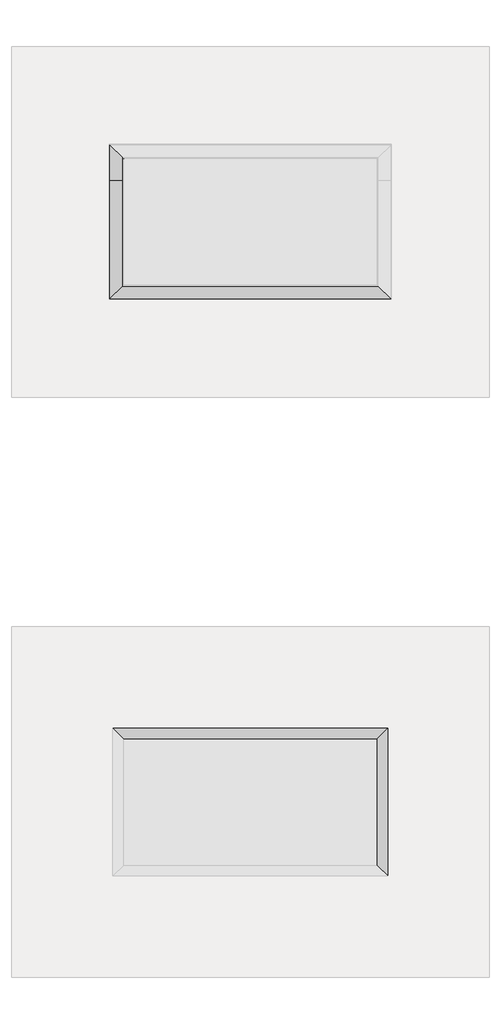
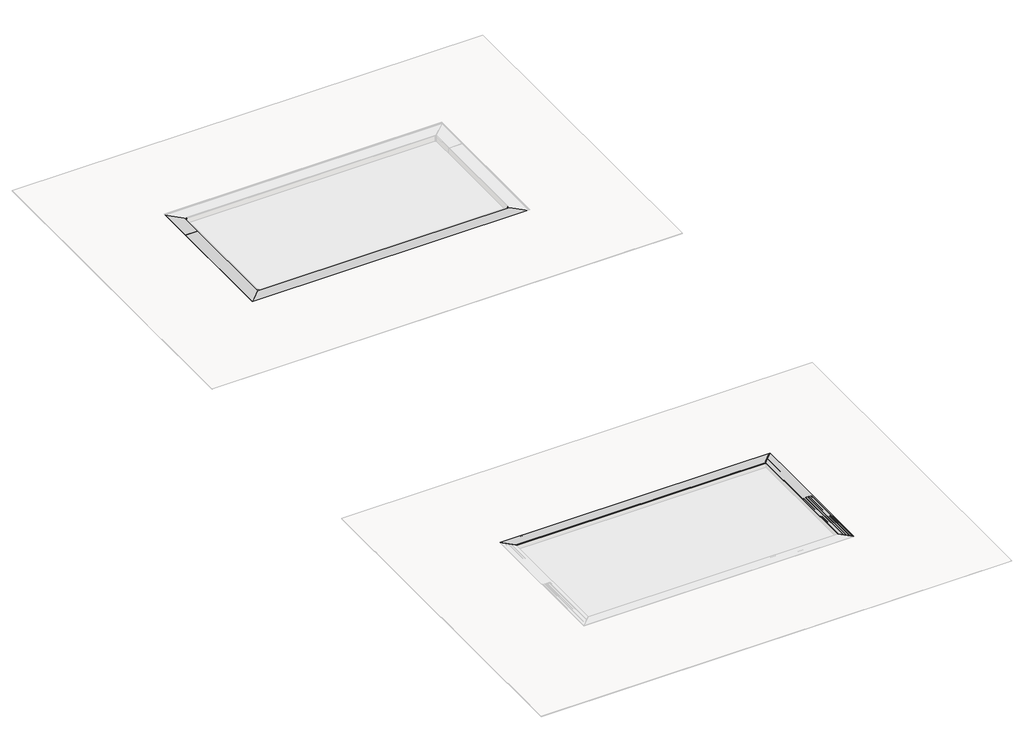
# One storey, part 4 of 8: 22 proxies.
"""IFC4 building model written with IfcOpenShell, lengths in millimetres."""

from ifc_helpers import new_model, si_unit, frame, origin, place, context, project, spatial, polyline, outline, extrude, faceted_brep, transform, mapped, element, save
from components import generic_models_9fc1b6fc, generic_models_d2947595, generic_models_c2bf57ab, generic_models_37207ae5, generic_models_75372383, generic_models_188eaae2, generic_models_eecde402, generic_models_0ac0a968, generic_models_0a1366a3, generic_models_3d608d6a, generic_models_158b5dbd, generic_models_0967b9bf

model = new_model("IFC4")

# Units and contexts
model_context = context("Model", 3, world=origin())
ifc_project = project(units=[si_unit("LENGTHUNIT", "METRE", prefix="MILLI")], contexts=[model_context])

# Site, building, storey
site = spatial("IfcSite", under=ifc_project)
building = spatial("IfcBuilding", under=site)
storey = spatial("IfcBuildingStorey", under=building, Name="EXAGRES_Serie YOHO_Piscinas_ejemplo", Elevation=0.0)

# Proxies
placement = place(None, origin())
element("IfcBuildingElementProxy", 1, Name="Wall Sweeps", at=placement, inside=storey, context=model_context, shape_type="Brep", body=[
    faceted_brep([(-4394.8495187, -8731.1586753, -200.0), (-4594.8495187, -8531.1586753, -200.0), (-4794.8495187, -8331.1586753, -200.0), (-4794.8495187, -8331.1586753, 0.0), (-4394.8495187, -8731.1586753, 0.0), (-13244.8495187, -8731.1586753, -200.0), (-13244.8495187, -8731.1586753, 0.0), (-12844.8495187, -8331.1586753, 0.0), (-12844.8495187, -8331.1586753, -200.0), (-13044.8495187, -8531.1586753, -200.0)], [[[0, 1, 2, 3, 4]], [[5, 6, 7, 8, 9]], [[3, 2, 8, 7]], [[2, 1, 0, 5, 9, 8]], [[4, 3, 7, 6]], [[0, 4, 6, 5]]]),
])
element("IfcBuildingElementProxy", 2, Name="Wall Sweeps", at=placement, inside=storey, context=model_context, shape_type="Brep", body=[
    faceted_brep([(-13244.8495187, -8731.1586753, -200.0), (-13044.8495187, -8531.1586753, -200.0), (-12844.8495187, -8331.1586753, -200.0), (-12844.8495187, -8331.1586753, 0.0), (-13244.8495187, -8731.1586753, 0.0), (-13244.8495187, -5006.1586753, -200.0), (-13244.8495187, -5006.1586753, 0.0), (-12844.8495187, -5006.1586753, 0.0), (-12844.8495187, -5006.1586753, -200.0), (-13044.8495187, -5006.1586753, -200.0)], [[[0, 1, 2, 3, 4]], [[5, 6, 7, 8, 9]], [[3, 2, 8, 7]], [[2, 1, 0, 5, 9, 8]], [[4, 3, 7, 6]], [[0, 4, 6, 5]]]),
])
element("IfcBuildingElementProxy", 3, Name="Wall Sweeps", at=placement, inside=storey, context=model_context, shape_type="Brep", body=[
    faceted_brep([(-13244.8495187, -5006.1586753, -200.0), (-13044.8495187, -5006.1586753, -200.0), (-12844.8495187, -5006.1586753, -200.0), (-12844.8495187, -5006.1586753, 0.0), (-13244.8495187, -5006.1586753, 0.0), (-13244.8495187, -3881.1586753, -200.0), (-13244.8495187, -3881.1586753, 0.0), (-12844.8495187, -4281.1586753, 0.0), (-12844.8495187, -4281.1586753, -200.0), (-13044.8495187, -4081.1586753, -200.0)], [[[0, 1, 2, 3, 4]], [[5, 6, 7, 8, 9]], [[2, 1, 0, 5, 9, 8]], [[3, 2, 8, 7]], [[4, 3, 7, 6]], [[0, 4, 6, 5]]]),
])
element("IfcBuildingElementProxy", 4, Name="Wall Sweeps", at=placement, inside=storey, context=model_context, shape_type="Brep", body=[
    faceted_brep([(-12832.8495187, -22587.0065757, 0.0), (-12819.8495187, -22600.0065757, 0.0), (-12819.8495187, -22600.0065757, 33.0), (-13149.8495187, -22270.0065757, 33.0), (-13149.8495187, -22270.0065757, 21.0), (-13143.8495187, -22276.0065757, 21.0), (-13143.8495187, -22276.0065757, 22.0), (-13139.8495187, -22280.0065757, 22.0), (-13139.8495187, -22280.0065757, 21.0), (-13133.8495187, -22286.0065757, 21.0), (-13133.8495187, -22286.0065757, 22.0), (-13129.8495187, -22290.0065757, 22.0), (-13129.8495187, -22290.0065757, 21.0), (-13123.8495187, -22296.0065757, 21.0), (-13123.8495187, -22296.0065757, 22.0), (-13119.8495187, -22300.0065757, 22.0), (-13119.8495187, -22300.0065757, 21.0), (-13113.8495187, -22306.0065757, 21.0), (-13113.8495187, -22306.0065757, 22.0), (-13109.8495187, -22310.0065757, 22.0), (-13109.8495187, -22310.0065757, 21.0), (-13103.8495187, -22316.0065757, 21.0), (-13103.8495187, -22316.0065757, 22.0), (-13099.8495187, -22320.0065757, 22.0), (-13099.8495187, -22320.0065757, 21.0), (-13093.8495187, -22326.0065757, 21.0), (-13093.8495187, -22326.0065757, 22.0), (-13089.8495187, -22330.0065757, 22.0), (-13089.8495187, -22330.0065757, 21.0), (-13083.8495187, -22336.0065757, 21.0), (-13083.8495187, -22336.0065757, 22.0), (-13079.8495187, -22340.0065757, 22.0), (-13079.8495187, -22340.0065757, 21.0), (-13073.8495187, -22346.0065757, 21.0), (-13073.8495187, -22346.0065757, 22.0), (-13069.8495187, -22350.0065757, 22.0), (-13069.8495187, -22350.0065757, 21.0), (-13063.8495187, -22356.0065757, 21.0), (-13063.8495187, -22356.0065757, 22.0), (-13059.8495187, -22360.0065757, 22.0), (-13059.8495187, -22360.0065757, 21.0), (-13053.8495187, -22366.0065757, 21.0), (-13053.8495187, -22366.0065757, 22.0), (-13049.8495187, -22370.0065757, 22.0), (-13049.8495187, -22370.0065757, 21.0), (-13043.8495187, -22376.0065757, 21.0), (-13043.8495187, -22376.0065757, 22.0), (-13039.8495187, -22380.0065757, 22.0), (-13039.8495187, -22380.0065757, 21.0), (-13033.8495187, -22386.0065757, 21.0), (-13033.8495187, -22386.0065757, 22.0), (-13029.8495187, -22390.0065757, 22.0), (-13029.8495187, -22390.0065757, 21.0), (-13023.8495187, -22396.0065757, 21.0), (-13023.8495187, -22396.0065757, 22.0), (-13019.8495187, -22400.0065757, 22.0), (-13019.8495187, -22400.0065757, 21.0), (-13013.8495187, -22406.0065757, 21.0), (-13013.8495187, -22406.0065757, 22.0), (-13009.8495187, -22410.0065757, 22.0), (-13009.8495187, -22410.0065757, 21.0), (-13003.8495187, -22416.0065757, 21.0), (-13003.8495187, -22416.0065757, 22.0), (-12999.8495187, -22420.0065757, 22.0), (-12999.8495187, -22420.0065757, 21.0), (-12993.8495187, -22426.0065757, 21.0), (-12993.8495187, -22426.0065757, 22.0), (-12989.8495187, -22430.0065757, 22.0), (-12989.8495187, -22430.0065757, 21.0), (-12983.8495187, -22436.0065757, 21.0), (-12983.8495187, -22436.0065757, 22.0), (-12979.8495187, -22440.0065757, 22.0), (-12979.8495187, -22440.0065757, 21.0), (-12973.8495187, -22446.0065757, 21.0), (-12973.8495187, -22446.0065757, 22.0), (-12969.8495187, -22450.0065757, 22.0), (-12969.8495187, -22450.0065757, 21.0), (-12963.8495187, -22456.0065757, 21.0), (-12963.8495187, -22456.0065757, 22.0), (-12959.8495187, -22460.0065757, 22.0), (-12959.8495187, -22460.0065757, 21.0), (-12953.8495187, -22466.0065757, 21.0), (-12953.8495187, -22466.0065757, 22.0), (-12949.8495187, -22470.0065757, 22.0), (-12949.8495187, -22470.0065757, 21.0), (-12943.8495187, -22476.0065757, 21.0), (-12943.8495187, -22476.0065757, 22.0), (-12939.8495187, -22480.0065757, 22.0), (-12939.8495187, -22480.0065757, 21.0), (-12933.8495187, -22486.0065757, 21.0), (-12933.8495187, -22486.0065757, 22.0), (-12929.8495187, -22490.0065757, 22.0), (-12929.8495187, -22490.0065757, 21.0), (-12923.8495187, -22496.0065757, 21.0), (-12923.8495187, -22496.0065757, 22.0), (-12919.8495187, -22500.0065757, 22.0), (-12919.8495187, -22500.0065757, 21.0), (-12913.8495187, -22506.0065757, 21.0), (-12913.8495187, -22506.0065757, 22.0), (-12909.8495187, -22510.0065757, 22.0), (-12909.8495187, -22510.0065757, 21.0), (-12903.8495187, -22516.0065757, 21.0), (-12903.8495187, -22516.0065757, 22.0), (-12899.8495187, -22520.0065757, 22.0), (-12899.8495187, -22520.0065757, 21.0), (-12893.8495187, -22526.0065757, 21.0), (-12893.8495187, -22526.0065757, 22.0), (-12889.8495187, -22530.0065757, 22.0), (-12889.8495187, -22530.0065757, 21.0), (-12883.8495187, -22536.0065757, 21.0), (-12883.8495187, -22536.0065757, 22.0), (-12879.8495187, -22540.0065757, 22.0), (-12879.8495187, -22540.0065757, 21.0), (-12873.8495187, -22546.0065757, 21.0), (-12873.8495187, -22546.0065757, 22.0), (-12869.8495187, -22550.0065757, 22.0), (-12869.8495187, -22550.0065757, 21.0), (-12863.8495187, -22556.0065757, 21.0), (-12863.8495187, -22556.0065757, 22.0), (-12859.8495187, -22560.0065757, 22.0), (-12859.8495187, -22560.0065757, 21.0), (-12853.8495187, -22566.0065757, 21.0), (-12853.8495187, -22566.0065757, 22.0), (-12849.8495187, -22570.0065757, 22.0), (-12849.8495187, -22570.0065757, 21.0), (-12843.8495187, -22576.0065757, 21.0), (-12843.8495187, -22576.0065757, 22.0), (-12839.8495187, -22580.0065757, 22.0), (-12839.8495187, -22580.0065757, 21.0), (-12832.8495187, -22587.0065757, 21.0), (-12832.8495187, -22587.0065757, 14.0), (-12831.8495187, -22588.0065757, 14.0), (-12831.8495187, -22588.0065757, 8.0), (-12832.8495187, -22587.0065757, 8.0), (-4806.8495187, -22587.0065757, 0.0), (-4806.8495187, -22587.0065757, 8.0), (-4807.8495187, -22588.0065757, 8.0), (-4807.8495187, -22588.0065757, 14.0), (-4806.8495187, -22587.0065757, 14.0), (-4806.8495187, -22587.0065757, 21.0), (-4799.8495187, -22580.0065757, 21.0), (-4799.8495187, -22580.0065757, 22.0), (-4795.8495187, -22576.0065757, 22.0), (-4795.8495187, -22576.0065757, 21.0), (-4789.8495187, -22570.0065757, 21.0), (-4789.8495187, -22570.0065757, 22.0), (-4785.8495187, -22566.0065757, 22.0), (-4785.8495187, -22566.0065757, 21.0), (-4779.8495187, -22560.0065757, 21.0), (-4779.8495187, -22560.0065757, 22.0), (-4775.8495187, -22556.0065757, 22.0), (-4775.8495187, -22556.0065757, 21.0), (-4769.8495187, -22550.0065757, 21.0), (-4769.8495187, -22550.0065757, 22.0), (-4765.8495187, -22546.0065757, 22.0), (-4765.8495187, -22546.0065757, 21.0), (-4759.8495187, -22540.0065757, 21.0), (-4759.8495187, -22540.0065757, 22.0), (-4755.8495187, -22536.0065757, 22.0), (-4755.8495187, -22536.0065757, 21.0), (-4749.8495187, -22530.0065757, 21.0), (-4749.8495187, -22530.0065757, 22.0), (-4745.8495187, -22526.0065757, 22.0), (-4745.8495187, -22526.0065757, 21.0), (-4739.8495187, -22520.0065757, 21.0), (-4739.8495187, -22520.0065757, 22.0), (-4735.8495187, -22516.0065757, 22.0), (-4735.8495187, -22516.0065757, 21.0), (-4729.8495187, -22510.0065757, 21.0), (-4729.8495187, -22510.0065757, 22.0), (-4725.8495187, -22506.0065757, 22.0), (-4725.8495187, -22506.0065757, 21.0), (-4719.8495187, -22500.0065757, 21.0), (-4719.8495187, -22500.0065757, 22.0), (-4715.8495187, -22496.0065757, 22.0), (-4715.8495187, -22496.0065757, 21.0), (-4709.8495187, -22490.0065757, 21.0), (-4709.8495187, -22490.0065757, 22.0), (-4705.8495187, -22486.0065757, 22.0), (-4705.8495187, -22486.0065757, 21.0), (-4699.8495187, -22480.0065757, 21.0), (-4699.8495187, -22480.0065757, 22.0), (-4695.8495187, -22476.0065757, 22.0), (-4695.8495187, -22476.0065757, 21.0), (-4689.8495187, -22470.0065757, 21.0), (-4689.8495187, -22470.0065757, 22.0), (-4685.8495187, -22466.0065757, 22.0), (-4685.8495187, -22466.0065757, 21.0), (-4679.8495187, -22460.0065757, 21.0), (-4679.8495187, -22460.0065757, 22.0), (-4675.8495187, -22456.0065757, 22.0), (-4675.8495187, -22456.0065757, 21.0), (-4669.8495187, -22450.0065757, 21.0), (-4669.8495187, -22450.0065757, 22.0), (-4665.8495187, -22446.0065757, 22.0), (-4665.8495187, -22446.0065757, 21.0), (-4659.8495187, -22440.0065757, 21.0), (-4659.8495187, -22440.0065757, 22.0), (-4655.8495187, -22436.0065757, 22.0), (-4655.8495187, -22436.0065757, 21.0), (-4649.8495187, -22430.0065757, 21.0), (-4649.8495187, -22430.0065757, 22.0), (-4645.8495187, -22426.0065757, 22.0), (-4645.8495187, -22426.0065757, 21.0), (-4639.8495187, -22420.0065757, 21.0), (-4639.8495187, -22420.0065757, 22.0), (-4635.8495187, -22416.0065757, 22.0), (-4635.8495187, -22416.0065757, 21.0), (-4629.8495187, -22410.0065757, 21.0), (-4629.8495187, -22410.0065757, 22.0), (-4625.8495187, -22406.0065757, 22.0), (-4625.8495187, -22406.0065757, 21.0), (-4619.8495187, -22400.0065757, 21.0), (-4619.8495187, -22400.0065757, 22.0), (-4615.8495187, -22396.0065757, 22.0), (-4615.8495187, -22396.0065757, 21.0), (-4609.8495187, -22390.0065757, 21.0), (-4609.8495187, -22390.0065757, 22.0), (-4605.8495187, -22386.0065757, 22.0), (-4605.8495187, -22386.0065757, 21.0), (-4599.8495187, -22380.0065757, 21.0), (-4599.8495187, -22380.0065757, 22.0), (-4595.8495187, -22376.0065757, 22.0), (-4595.8495187, -22376.0065757, 21.0), (-4589.8495187, -22370.0065757, 21.0), (-4589.8495187, -22370.0065757, 22.0), (-4585.8495187, -22366.0065757, 22.0), (-4585.8495187, -22366.0065757, 21.0), (-4579.8495187, -22360.0065757, 21.0), (-4579.8495187, -22360.0065757, 22.0), (-4575.8495187, -22356.0065757, 22.0), (-4575.8495187, -22356.0065757, 21.0), (-4569.8495187, -22350.0065757, 21.0), (-4569.8495187, -22350.0065757, 22.0), (-4565.8495187, -22346.0065757, 22.0), (-4565.8495187, -22346.0065757, 21.0), (-4559.8495187, -22340.0065757, 21.0), (-4559.8495187, -22340.0065757, 22.0), (-4555.8495187, -22336.0065757, 22.0), (-4555.8495187, -22336.0065757, 21.0), (-4549.8495187, -22330.0065757, 21.0), (-4549.8495187, -22330.0065757, 22.0), (-4545.8495187, -22326.0065757, 22.0), (-4545.8495187, -22326.0065757, 21.0), (-4539.8495187, -22320.0065757, 21.0), (-4539.8495187, -22320.0065757, 22.0), (-4535.8495187, -22316.0065757, 22.0), (-4535.8495187, -22316.0065757, 21.0), (-4529.8495187, -22310.0065757, 21.0), (-4529.8495187, -22310.0065757, 22.0), (-4525.8495187, -22306.0065757, 22.0), (-4525.8495187, -22306.0065757, 21.0), (-4519.8495187, -22300.0065757, 21.0), (-4519.8495187, -22300.0065757, 22.0), (-4515.8495187, -22296.0065757, 22.0), (-4515.8495187, -22296.0065757, 21.0), (-4509.8495187, -22290.0065757, 21.0), (-4509.8495187, -22290.0065757, 22.0), (-4505.8495187, -22286.0065757, 22.0), (-4505.8495187, -22286.0065757, 21.0), (-4499.8495187, -22280.0065757, 21.0), (-4499.8495187, -22280.0065757, 22.0), (-4495.8495187, -22276.0065757, 22.0), (-4495.8495187, -22276.0065757, 21.0), (-4489.8495187, -22270.0065757, 21.0), (-4489.8495187, -22270.0065757, 33.0), (-4819.8495187, -22600.0065757, 33.0), (-4819.8495187, -22600.0065757, 0.0)], [[[0, 1, 2, 3, 4, 5, 6, 7, 8, 9, 10, 11, 12, 13, 14, 15, 16, 17, 18, 19, 20, 21, 22, 23, 24, 25, 26, 27, 28, 29, 30, 31, 32, 33, 34, 35, 36, 37, 38, 39, 40, 41, 42, 43, 44, 45, 46, 47, 48, 49, 50, 51, 52, 53, 54, 55, 56, 57, 58, 59, 60, 61, 62, 63, 64, 65, 66, 67, 68, 69, 70, 71, 72, 73, 74, 75, 76, 77, 78, 79, 80, 81, 82, 83, 84, 85, 86, 87, 88, 89, 90, 91, 92, 93, 94, 95, 96, 97, 98, 99, 100, 101, 102, 103, 104, 105, 106, 107, 108, 109, 110, 111, 112, 113, 114, 115, 116, 117, 118, 119, 120, 121, 122, 123, 124, 125, 126, 127, 128, 129, 130, 131, 132, 133]], [[134, 135, 136, 137, 138, 139, 140, 141, 142, 143, 144, 145, 146, 147, 148, 149, 150, 151, 152, 153, 154, 155, 156, 157, 158, 159, 160, 161, 162, 163, 164, 165, 166, 167, 168, 169, 170, 171, 172, 173, 174, 175, 176, 177, 178, 179, 180, 181, 182, 183, 184, 185, 186, 187, 188, 189, 190, 191, 192, 193, 194, 195, 196, 197, 198, 199, 200, 201, 202, 203, 204, 205, 206, 207, 208, 209, 210, 211, 212, 213, 214, 215, 216, 217, 218, 219, 220, 221, 222, 223, 224, 225, 226, 227, 228, 229, 230, 231, 232, 233, 234, 235, 236, 237, 238, 239, 240, 241, 242, 243, 244, 245, 246, 247, 248, 249, 250, 251, 252, 253, 254, 255, 256, 257, 258, 259, 260, 261, 262, 263, 264, 265, 266, 267]], [[1, 0, 134, 267]], [[2, 1, 267, 266]], [[3, 2, 266, 265]], [[4, 3, 265, 264]], [[5, 4, 264, 263]], [[6, 5, 263, 262]], [[7, 6, 262, 261]], [[8, 7, 261, 260]], [[9, 8, 260, 259]], [[10, 9, 259, 258]], [[11, 10, 258, 257]], [[12, 11, 257, 256]], [[13, 12, 256, 255]], [[14, 13, 255, 254]], [[15, 14, 254, 253]], [[16, 15, 253, 252]], [[17, 16, 252, 251]], [[18, 17, 251, 250]], [[19, 18, 250, 249]], [[20, 19, 249, 248]], [[21, 20, 248, 247]], [[22, 21, 247, 246]], [[23, 22, 246, 245]], [[24, 23, 245, 244]], [[25, 24, 244, 243]], [[26, 25, 243, 242]], [[27, 26, 242, 241]], [[28, 27, 241, 240]], [[29, 28, 240, 239]], [[30, 29, 239, 238]], [[31, 30, 238, 237]], [[32, 31, 237, 236]], [[33, 32, 236, 235]], [[34, 33, 235, 234]], [[35, 34, 234, 233]], [[36, 35, 233, 232]], [[37, 36, 232, 231]], [[38, 37, 231, 230]], [[39, 38, 230, 229]], [[40, 39, 229, 228]], [[41, 40, 228, 227]], [[42, 41, 227, 226]], [[43, 42, 226, 225]], [[44, 43, 225, 224]], [[45, 44, 224, 223]], [[46, 45, 223, 222]], [[47, 46, 222, 221]], [[48, 47, 221, 220]], [[49, 48, 220, 219]], [[50, 49, 219, 218]], [[51, 50, 218, 217]], [[52, 51, 217, 216]], [[53, 52, 216, 215]], [[54, 53, 215, 214]], [[55, 54, 214, 213]], [[56, 55, 213, 212]], [[57, 56, 212, 211]], [[58, 57, 211, 210]], [[59, 58, 210, 209]], [[60, 59, 209, 208]], [[61, 60, 208, 207]], [[62, 61, 207, 206]], [[63, 62, 206, 205]], [[64, 63, 205, 204]], [[65, 64, 204, 203]], [[66, 65, 203, 202]], [[67, 66, 202, 201]], [[68, 67, 201, 200]], [[69, 68, 200, 199]], [[70, 69, 199, 198]], [[71, 70, 198, 197]], [[72, 71, 197, 196]], [[73, 72, 196, 195]], [[74, 73, 195, 194]], [[75, 74, 194, 193]], [[76, 75, 193, 192]], [[77, 76, 192, 191]], [[78, 77, 191, 190]], [[79, 78, 190, 189]], [[80, 79, 189, 188]], [[81, 80, 188, 187]], [[82, 81, 187, 186]], [[83, 82, 186, 185]], [[84, 83, 185, 184]], [[85, 84, 184, 183]], [[86, 85, 183, 182]], [[87, 86, 182, 181]], [[88, 87, 181, 180]], [[89, 88, 180, 179]], [[90, 89, 179, 178]], [[91, 90, 178, 177]], [[92, 91, 177, 176]], [[93, 92, 176, 175]], [[94, 93, 175, 174]], [[95, 94, 174, 173]], [[96, 95, 173, 172]], [[97, 96, 172, 171]], [[98, 97, 171, 170]], [[99, 98, 170, 169]], [[100, 99, 169, 168]], [[101, 100, 168, 167]], [[102, 101, 167, 166]], [[103, 102, 166, 165]], [[104, 103, 165, 164]], [[105, 104, 164, 163]], [[106, 105, 163, 162]], [[107, 106, 162, 161]], [[108, 107, 161, 160]], [[109, 108, 160, 159]], [[110, 109, 159, 158]], [[111, 110, 158, 157]], [[112, 111, 157, 156]], [[113, 112, 156, 155]], [[114, 113, 155, 154]], [[115, 114, 154, 153]], [[116, 115, 153, 152]], [[117, 116, 152, 151]], [[118, 117, 151, 150]], [[119, 118, 150, 149]], [[120, 119, 149, 148]], [[121, 120, 148, 147]], [[122, 121, 147, 146]], [[123, 122, 146, 145]], [[124, 123, 145, 144]], [[125, 124, 144, 143]], [[126, 125, 143, 142]], [[127, 126, 142, 141]], [[128, 127, 141, 140]], [[129, 128, 140, 139]], [[130, 129, 139, 138]], [[131, 130, 138, 137]], [[132, 131, 137, 136]], [[133, 132, 136, 135]], [[0, 133, 135, 134]]]),
])
element("IfcBuildingElementProxy", 5, Name="Wall Sweeps", at=placement, inside=storey, context=model_context, shape_type="SweptSolid", body=[
    extrude(outline(polyline([(-12834.8495187, -22585.0065757), (-13139.8495187, -22280.0065757), (-4499.8495187, -22280.0065757), (-4804.8495187, -22585.0065757), (-12834.8495187, -22585.0065757)])), frame((0.0, 0.0, -181.26), z_axis=(0.0, 0.0, 1.0), x_axis=(1.0, 0.0, 0.0)), (0.0, 0.0, 1.0), 200.0),
])
element("IfcBuildingElementProxy", 6, Name="Wall Sweeps", at=placement, inside=storey, context=model_context, shape_type="Brep", body=[
    faceted_brep([(-4499.8495187, -26920.0065757, -181.26), (-4594.8495187, -26825.0065757, -181.26), (-4804.8495187, -26615.0065757, -181.26), (-4804.8495187, -26615.0065757, 0.0), (-4804.8495187, -26615.0065757, 18.74), (-4499.8495187, -26920.0065757, 18.74), (-13139.8495187, -26920.0065757, -181.26), (-13139.8495187, -26920.0065757, 18.74), (-12834.8495187, -26615.0065757, 18.74), (-12834.8495187, -26615.0065757, 0.0), (-12834.8495187, -26615.0065757, -181.26), (-13044.8495187, -26825.0065757, -181.26)], [[[0, 1, 2, 3, 4, 5]], [[6, 7, 8, 9, 10, 11]], [[4, 3, 2, 10, 9, 8]], [[2, 1, 0, 6, 11, 10]], [[5, 4, 8, 7]], [[0, 5, 7, 6]]]),
])
element("IfcBuildingElementProxy", 7, Name="Wall Sweeps", at=placement, inside=storey, context=model_context, shape_type="Brep", body=[
    faceted_brep([(-4806.8495187, -22587.0065757, 0.0), (-4819.8495187, -22600.0065757, 0.0), (-4819.8495187, -22600.0065757, 33.0), (-4489.8495187, -22270.0065757, 33.0), (-4489.8495187, -22270.0065757, 21.0), (-4495.8495187, -22276.0065757, 21.0), (-4495.8495187, -22276.0065757, 22.0), (-4499.8495187, -22280.0065757, 22.0), (-4499.8495187, -22280.0065757, 21.0), (-4505.8495187, -22286.0065757, 21.0), (-4505.8495187, -22286.0065757, 22.0), (-4509.8495187, -22290.0065757, 22.0), (-4509.8495187, -22290.0065757, 21.0), (-4515.8495187, -22296.0065757, 21.0), (-4515.8495187, -22296.0065757, 22.0), (-4519.8495187, -22300.0065757, 22.0), (-4519.8495187, -22300.0065757, 21.0), (-4525.8495187, -22306.0065757, 21.0), (-4525.8495187, -22306.0065757, 22.0), (-4529.8495187, -22310.0065757, 22.0), (-4529.8495187, -22310.0065757, 21.0), (-4535.8495187, -22316.0065757, 21.0), (-4535.8495187, -22316.0065757, 22.0), (-4539.8495187, -22320.0065757, 22.0), (-4539.8495187, -22320.0065757, 21.0), (-4545.8495187, -22326.0065757, 21.0), (-4545.8495187, -22326.0065757, 22.0), (-4549.8495187, -22330.0065757, 22.0), (-4549.8495187, -22330.0065757, 21.0), (-4555.8495187, -22336.0065757, 21.0), (-4555.8495187, -22336.0065757, 22.0), (-4559.8495187, -22340.0065757, 22.0), (-4559.8495187, -22340.0065757, 21.0), (-4565.8495187, -22346.0065757, 21.0), (-4565.8495187, -22346.0065757, 22.0), (-4569.8495187, -22350.0065757, 22.0), (-4569.8495187, -22350.0065757, 21.0), (-4575.8495187, -22356.0065757, 21.0), (-4575.8495187, -22356.0065757, 22.0), (-4579.8495187, -22360.0065757, 22.0), (-4579.8495187, -22360.0065757, 21.0), (-4585.8495187, -22366.0065757, 21.0), (-4585.8495187, -22366.0065757, 22.0), (-4589.8495187, -22370.0065757, 22.0), (-4589.8495187, -22370.0065757, 21.0), (-4595.8495187, -22376.0065757, 21.0), (-4595.8495187, -22376.0065757, 22.0), (-4599.8495187, -22380.0065757, 22.0), (-4599.8495187, -22380.0065757, 21.0), (-4605.8495187, -22386.0065757, 21.0), (-4605.8495187, -22386.0065757, 22.0), (-4609.8495187, -22390.0065757, 22.0), (-4609.8495187, -22390.0065757, 21.0), (-4615.8495187, -22396.0065757, 21.0), (-4615.8495187, -22396.0065757, 22.0), (-4619.8495187, -22400.0065757, 22.0), (-4619.8495187, -22400.0065757, 21.0), (-4625.8495187, -22406.0065757, 21.0), (-4625.8495187, -22406.0065757, 22.0), (-4629.8495187, -22410.0065757, 22.0), (-4629.8495187, -22410.0065757, 21.0), (-4635.8495187, -22416.0065757, 21.0), (-4635.8495187, -22416.0065757, 22.0), (-4639.8495187, -22420.0065757, 22.0), (-4639.8495187, -22420.0065757, 21.0), (-4645.8495187, -22426.0065757, 21.0), (-4645.8495187, -22426.0065757, 22.0), (-4649.8495187, -22430.0065757, 22.0), (-4649.8495187, -22430.0065757, 21.0), (-4655.8495187, -22436.0065757, 21.0), (-4655.8495187, -22436.0065757, 22.0), (-4659.8495187, -22440.0065757, 22.0), (-4659.8495187, -22440.0065757, 21.0), (-4665.8495187, -22446.0065757, 21.0), (-4665.8495187, -22446.0065757, 22.0), (-4669.8495187, -22450.0065757, 22.0), (-4669.8495187, -22450.0065757, 21.0), (-4675.8495187, -22456.0065757, 21.0), (-4675.8495187, -22456.0065757, 22.0), (-4679.8495187, -22460.0065757, 22.0), (-4679.8495187, -22460.0065757, 21.0), (-4685.8495187, -22466.0065757, 21.0), (-4685.8495187, -22466.0065757, 22.0), (-4689.8495187, -22470.0065757, 22.0), (-4689.8495187, -22470.0065757, 21.0), (-4695.8495187, -22476.0065757, 21.0), (-4695.8495187, -22476.0065757, 22.0), (-4699.8495187, -22480.0065757, 22.0), (-4699.8495187, -22480.0065757, 21.0), (-4705.8495187, -22486.0065757, 21.0), (-4705.8495187, -22486.0065757, 22.0), (-4709.8495187, -22490.0065757, 22.0), (-4709.8495187, -22490.0065757, 21.0), (-4715.8495187, -22496.0065757, 21.0), (-4715.8495187, -22496.0065757, 22.0), (-4719.8495187, -22500.0065757, 22.0), (-4719.8495187, -22500.0065757, 21.0), (-4725.8495187, -22506.0065757, 21.0), (-4725.8495187, -22506.0065757, 22.0), (-4729.8495187, -22510.0065757, 22.0), (-4729.8495187, -22510.0065757, 21.0), (-4735.8495187, -22516.0065757, 21.0), (-4735.8495187, -22516.0065757, 22.0), (-4739.8495187, -22520.0065757, 22.0), (-4739.8495187, -22520.0065757, 21.0), (-4745.8495187, -22526.0065757, 21.0), (-4745.8495187, -22526.0065757, 22.0), (-4749.8495187, -22530.0065757, 22.0), (-4749.8495187, -22530.0065757, 21.0), (-4755.8495187, -22536.0065757, 21.0), (-4755.8495187, -22536.0065757, 22.0), (-4759.8495187, -22540.0065757, 22.0), (-4759.8495187, -22540.0065757, 21.0), (-4765.8495187, -22546.0065757, 21.0), (-4765.8495187, -22546.0065757, 22.0), (-4769.8495187, -22550.0065757, 22.0), (-4769.8495187, -22550.0065757, 21.0), (-4775.8495187, -22556.0065757, 21.0), (-4775.8495187, -22556.0065757, 22.0), (-4779.8495187, -22560.0065757, 22.0), (-4779.8495187, -22560.0065757, 21.0), (-4785.8495187, -22566.0065757, 21.0), (-4785.8495187, -22566.0065757, 22.0), (-4789.8495187, -22570.0065757, 22.0), (-4789.8495187, -22570.0065757, 21.0), (-4795.8495187, -22576.0065757, 21.0), (-4795.8495187, -22576.0065757, 22.0), (-4799.8495187, -22580.0065757, 22.0), (-4799.8495187, -22580.0065757, 21.0), (-4806.8495187, -22587.0065757, 21.0), (-4806.8495187, -22587.0065757, 14.0), (-4807.8495187, -22588.0065757, 14.0), (-4807.8495187, -22588.0065757, 8.0), (-4806.8495187, -22587.0065757, 8.0), (-4806.8495187, -26613.0065757, 0.0), (-4806.8495187, -26613.0065757, 8.0), (-4807.8495187, -26612.0065757, 8.0), (-4807.8495187, -26612.0065757, 14.0), (-4806.8495187, -26613.0065757, 14.0), (-4806.8495187, -26613.0065757, 21.0), (-4799.8495187, -26620.0065757, 21.0), (-4799.8495187, -26620.0065757, 22.0), (-4795.8495187, -26624.0065757, 22.0), (-4795.8495187, -26624.0065757, 21.0), (-4789.8495187, -26630.0065757, 21.0), (-4789.8495187, -26630.0065757, 22.0), (-4785.8495187, -26634.0065757, 22.0), (-4785.8495187, -26634.0065757, 21.0), (-4779.8495187, -26640.0065757, 21.0), (-4779.8495187, -26640.0065757, 22.0), (-4775.8495187, -26644.0065757, 22.0), (-4775.8495187, -26644.0065757, 21.0), (-4769.8495187, -26650.0065757, 21.0), (-4769.8495187, -26650.0065757, 22.0), (-4765.8495187, -26654.0065757, 22.0), (-4765.8495187, -26654.0065757, 21.0), (-4759.8495187, -26660.0065757, 21.0), (-4759.8495187, -26660.0065757, 22.0), (-4755.8495187, -26664.0065757, 22.0), (-4755.8495187, -26664.0065757, 21.0), (-4749.8495187, -26670.0065757, 21.0), (-4749.8495187, -26670.0065757, 22.0), (-4745.8495187, -26674.0065757, 22.0), (-4745.8495187, -26674.0065757, 21.0), (-4739.8495187, -26680.0065757, 21.0), (-4739.8495187, -26680.0065757, 22.0), (-4735.8495187, -26684.0065757, 22.0), (-4735.8495187, -26684.0065757, 21.0), (-4729.8495187, -26690.0065757, 21.0), (-4729.8495187, -26690.0065757, 22.0), (-4725.8495187, -26694.0065757, 22.0), (-4725.8495187, -26694.0065757, 21.0), (-4719.8495187, -26700.0065757, 21.0), (-4719.8495187, -26700.0065757, 22.0), (-4715.8495187, -26704.0065757, 22.0), (-4715.8495187, -26704.0065757, 21.0), (-4709.8495187, -26710.0065757, 21.0), (-4709.8495187, -26710.0065757, 22.0), (-4705.8495187, -26714.0065757, 22.0), (-4705.8495187, -26714.0065757, 21.0), (-4699.8495187, -26720.0065757, 21.0), (-4699.8495187, -26720.0065757, 22.0), (-4695.8495187, -26724.0065757, 22.0), (-4695.8495187, -26724.0065757, 21.0), (-4689.8495187, -26730.0065757, 21.0), (-4689.8495187, -26730.0065757, 22.0), (-4685.8495187, -26734.0065757, 22.0), (-4685.8495187, -26734.0065757, 21.0), (-4679.8495187, -26740.0065757, 21.0), (-4679.8495187, -26740.0065757, 22.0), (-4675.8495187, -26744.0065757, 22.0), (-4675.8495187, -26744.0065757, 21.0), (-4669.8495187, -26750.0065757, 21.0), (-4669.8495187, -26750.0065757, 22.0), (-4665.8495187, -26754.0065757, 22.0), (-4665.8495187, -26754.0065757, 21.0), (-4659.8495187, -26760.0065757, 21.0), (-4659.8495187, -26760.0065757, 22.0), (-4655.8495187, -26764.0065757, 22.0), (-4655.8495187, -26764.0065757, 21.0), (-4649.8495187, -26770.0065757, 21.0), (-4649.8495187, -26770.0065757, 22.0), (-4645.8495187, -26774.0065757, 22.0), (-4645.8495187, -26774.0065757, 21.0), (-4639.8495187, -26780.0065757, 21.0), (-4639.8495187, -26780.0065757, 22.0), (-4635.8495187, -26784.0065757, 22.0), (-4635.8495187, -26784.0065757, 21.0), (-4629.8495187, -26790.0065757, 21.0), (-4629.8495187, -26790.0065757, 22.0), (-4625.8495187, -26794.0065757, 22.0), (-4625.8495187, -26794.0065757, 21.0), (-4619.8495187, -26800.0065757, 21.0), (-4619.8495187, -26800.0065757, 22.0), (-4615.8495187, -26804.0065757, 22.0), (-4615.8495187, -26804.0065757, 21.0), (-4609.8495187, -26810.0065757, 21.0), (-4609.8495187, -26810.0065757, 22.0), (-4605.8495187, -26814.0065757, 22.0), (-4605.8495187, -26814.0065757, 21.0), (-4599.8495187, -26820.0065757, 21.0), (-4599.8495187, -26820.0065757, 22.0), (-4595.8495187, -26824.0065757, 22.0), (-4595.8495187, -26824.0065757, 21.0), (-4589.8495187, -26830.0065757, 21.0), (-4589.8495187, -26830.0065757, 22.0), (-4585.8495187, -26834.0065757, 22.0), (-4585.8495187, -26834.0065757, 21.0), (-4579.8495187, -26840.0065757, 21.0), (-4579.8495187, -26840.0065757, 22.0), (-4575.8495187, -26844.0065757, 22.0), (-4575.8495187, -26844.0065757, 21.0), (-4569.8495187, -26850.0065757, 21.0), (-4569.8495187, -26850.0065757, 22.0), (-4565.8495187, -26854.0065757, 22.0), (-4565.8495187, -26854.0065757, 21.0), (-4559.8495187, -26860.0065757, 21.0), (-4559.8495187, -26860.0065757, 22.0), (-4555.8495187, -26864.0065757, 22.0), (-4555.8495187, -26864.0065757, 21.0), (-4549.8495187, -26870.0065757, 21.0), (-4549.8495187, -26870.0065757, 22.0), (-4545.8495187, -26874.0065757, 22.0), (-4545.8495187, -26874.0065757, 21.0), (-4539.8495187, -26880.0065757, 21.0), (-4539.8495187, -26880.0065757, 22.0), (-4535.8495187, -26884.0065757, 22.0), (-4535.8495187, -26884.0065757, 21.0), (-4529.8495187, -26890.0065757, 21.0), (-4529.8495187, -26890.0065757, 22.0), (-4525.8495187, -26894.0065757, 22.0), (-4525.8495187, -26894.0065757, 21.0), (-4519.8495187, -26900.0065757, 21.0), (-4519.8495187, -26900.0065757, 22.0), (-4515.8495187, -26904.0065757, 22.0), (-4515.8495187, -26904.0065757, 21.0), (-4509.8495187, -26910.0065757, 21.0), (-4509.8495187, -26910.0065757, 22.0), (-4505.8495187, -26914.0065757, 22.0), (-4505.8495187, -26914.0065757, 21.0), (-4499.8495187, -26920.0065757, 21.0), (-4499.8495187, -26920.0065757, 22.0), (-4495.8495187, -26924.0065757, 22.0), (-4495.8495187, -26924.0065757, 21.0), (-4489.8495187, -26930.0065757, 21.0), (-4489.8495187, -26930.0065757, 33.0), (-4819.8495187, -26600.0065757, 33.0), (-4819.8495187, -26600.0065757, 0.0)], [[[0, 1, 2, 3, 4, 5, 6, 7, 8, 9, 10, 11, 12, 13, 14, 15, 16, 17, 18, 19, 20, 21, 22, 23, 24, 25, 26, 27, 28, 29, 30, 31, 32, 33, 34, 35, 36, 37, 38, 39, 40, 41, 42, 43, 44, 45, 46, 47, 48, 49, 50, 51, 52, 53, 54, 55, 56, 57, 58, 59, 60, 61, 62, 63, 64, 65, 66, 67, 68, 69, 70, 71, 72, 73, 74, 75, 76, 77, 78, 79, 80, 81, 82, 83, 84, 85, 86, 87, 88, 89, 90, 91, 92, 93, 94, 95, 96, 97, 98, 99, 100, 101, 102, 103, 104, 105, 106, 107, 108, 109, 110, 111, 112, 113, 114, 115, 116, 117, 118, 119, 120, 121, 122, 123, 124, 125, 126, 127, 128, 129, 130, 131, 132, 133]], [[134, 135, 136, 137, 138, 139, 140, 141, 142, 143, 144, 145, 146, 147, 148, 149, 150, 151, 152, 153, 154, 155, 156, 157, 158, 159, 160, 161, 162, 163, 164, 165, 166, 167, 168, 169, 170, 171, 172, 173, 174, 175, 176, 177, 178, 179, 180, 181, 182, 183, 184, 185, 186, 187, 188, 189, 190, 191, 192, 193, 194, 195, 196, 197, 198, 199, 200, 201, 202, 203, 204, 205, 206, 207, 208, 209, 210, 211, 212, 213, 214, 215, 216, 217, 218, 219, 220, 221, 222, 223, 224, 225, 226, 227, 228, 229, 230, 231, 232, 233, 234, 235, 236, 237, 238, 239, 240, 241, 242, 243, 244, 245, 246, 247, 248, 249, 250, 251, 252, 253, 254, 255, 256, 257, 258, 259, 260, 261, 262, 263, 264, 265, 266, 267]], [[1, 0, 134, 267]], [[2, 1, 267, 266]], [[3, 2, 266, 265]], [[4, 3, 265, 264]], [[5, 4, 264, 263]], [[6, 5, 263, 262]], [[7, 6, 262, 261]], [[8, 7, 261, 260]], [[9, 8, 260, 259]], [[10, 9, 259, 258]], [[11, 10, 258, 257]], [[12, 11, 257, 256]], [[13, 12, 256, 255]], [[14, 13, 255, 254]], [[15, 14, 254, 253]], [[16, 15, 253, 252]], [[17, 16, 252, 251]], [[18, 17, 251, 250]], [[19, 18, 250, 249]], [[20, 19, 249, 248]], [[21, 20, 248, 247]], [[22, 21, 247, 246]], [[23, 22, 246, 245]], [[24, 23, 245, 244]], [[25, 24, 244, 243]], [[26, 25, 243, 242]], [[27, 26, 242, 241]], [[28, 27, 241, 240]], [[29, 28, 240, 239]], [[30, 29, 239, 238]], [[31, 30, 238, 237]], [[32, 31, 237, 236]], [[33, 32, 236, 235]], [[34, 33, 235, 234]], [[35, 34, 234, 233]], [[36, 35, 233, 232]], [[37, 36, 232, 231]], [[38, 37, 231, 230]], [[39, 38, 230, 229]], [[40, 39, 229, 228]], [[41, 40, 228, 227]], [[42, 41, 227, 226]], [[43, 42, 226, 225]], [[44, 43, 225, 224]], [[45, 44, 224, 223]], [[46, 45, 223, 222]], [[47, 46, 222, 221]], [[48, 47, 221, 220]], [[49, 48, 220, 219]], [[50, 49, 219, 218]], [[51, 50, 218, 217]], [[52, 51, 217, 216]], [[53, 52, 216, 215]], [[54, 53, 215, 214]], [[55, 54, 214, 213]], [[56, 55, 213, 212]], [[57, 56, 212, 211]], [[58, 57, 211, 210]], [[59, 58, 210, 209]], [[60, 59, 209, 208]], [[61, 60, 208, 207]], [[62, 61, 207, 206]], [[63, 62, 206, 205]], [[64, 63, 205, 204]], [[65, 64, 204, 203]], [[66, 65, 203, 202]], [[67, 66, 202, 201]], [[68, 67, 201, 200]], [[69, 68, 200, 199]], [[70, 69, 199, 198]], [[71, 70, 198, 197]], [[72, 71, 197, 196]], [[73, 72, 196, 195]], [[74, 73, 195, 194]], [[75, 74, 194, 193]], [[76, 75, 193, 192]], [[77, 76, 192, 191]], [[78, 77, 191, 190]], [[79, 78, 190, 189]], [[80, 79, 189, 188]], [[81, 80, 188, 187]], [[82, 81, 187, 186]], [[83, 82, 186, 185]], [[84, 83, 185, 184]], [[85, 84, 184, 183]], [[86, 85, 183, 182]], [[87, 86, 182, 181]], [[88, 87, 181, 180]], [[89, 88, 180, 179]], [[90, 89, 179, 178]], [[91, 90, 178, 177]], [[92, 91, 177, 176]], [[93, 92, 176, 175]], [[94, 93, 175, 174]], [[95, 94, 174, 173]], [[96, 95, 173, 172]], [[97, 96, 172, 171]], [[98, 97, 171, 170]], [[99, 98, 170, 169]], [[100, 99, 169, 168]], [[101, 100, 168, 167]], [[102, 101, 167, 166]], [[103, 102, 166, 165]], [[104, 103, 165, 164]], [[105, 104, 164, 163]], [[106, 105, 163, 162]], [[107, 106, 162, 161]], [[108, 107, 161, 160]], [[109, 108, 160, 159]], [[110, 109, 159, 158]], [[111, 110, 158, 157]], [[112, 111, 157, 156]], [[113, 112, 156, 155]], [[114, 113, 155, 154]], [[115, 114, 154, 153]], [[116, 115, 153, 152]], [[117, 116, 152, 151]], [[118, 117, 151, 150]], [[119, 118, 150, 149]], [[120, 119, 149, 148]], [[121, 120, 148, 147]], [[122, 121, 147, 146]], [[123, 122, 146, 145]], [[124, 123, 145, 144]], [[125, 124, 144, 143]], [[126, 125, 143, 142]], [[127, 126, 142, 141]], [[128, 127, 141, 140]], [[129, 128, 140, 139]], [[130, 129, 139, 138]], [[131, 130, 138, 137]], [[132, 131, 137, 136]], [[133, 132, 136, 135]], [[0, 133, 135, 134]]]),
])
element("IfcBuildingElementProxy", 8, Name="Wall Sweeps", at=placement, inside=storey, context=model_context, shape_type="Brep", body=[
    faceted_brep([(-4499.8495187, -22280.0065757, -181.26), (-4804.8495187, -22585.0065757, -181.26), (-4804.8495187, -22585.0065757, 18.74), (-4499.8495187, -22280.0065757, 18.74), (-4499.8495187, -26920.0065757, -181.26), (-4499.8495187, -26920.0065757, 18.74), (-4804.8495187, -26615.0065757, 18.74), (-4804.8495187, -26615.0065757, 0.0), (-4804.8495187, -26615.0065757, -181.26), (-4594.8495187, -26825.0065757, -181.26), (-4804.8495187, -22600.0065757, -181.26)], [[[0, 1, 2, 3]], [[4, 5, 6, 7, 8, 9]], [[1, 0, 4, 9, 8, 10]], [[2, 1, 10, 8, 7, 6]], [[3, 2, 6, 5]], [[0, 3, 5, 4]]]),
])
generic_models_shape = generic_models_9fc1b6fc(model_context)
element("IfcBuildingElementProxy", 9, Name="EXAGRES - Piscina Uña1 : Publica_Azul_4x4cm", ObjectType="EXAGRES - Piscina Uña1 : Publica_Azul_4x4cm", at=placement, inside=storey, context=model_context, shape_type="MappedRepresentation", body=[
    mapped(generic_models_shape, transform((-4819.8495187, -8306.1586753, -1500.0), x_axis=(0.0, 1.0, 0.0), y_axis=(0.0, 0.0, -1.0), z_axis=(-1.0, 0.0, 0.0))),
])
element("IfcBuildingElementProxy", 10, Name="EXAGRES - Piscina Uña1 : Publica_Azul_4x4cm", ObjectType="EXAGRES - Piscina Uña1 : Publica_Azul_4x4cm", at=placement, inside=storey, context=model_context, shape_type="MappedRepresentation", body=[
    mapped(generic_models_shape, transform((-12819.8495187, -8306.1586753, -500.0), x_axis=(0.0, 0.0, 1.0), y_axis=(0.0, -1.0, 0.0), z_axis=(1.0, 0.0, 0.0))),
])
element("IfcBuildingElementProxy", 11, Name="EXAGRES - Piscina Uña1 : Publica_Azul_4x4cm", ObjectType="EXAGRES - Piscina Uña1 : Publica_Azul_4x4cm", at=placement, inside=storey, context=model_context, shape_type="MappedRepresentation", body=[
    mapped(generic_models_shape, transform((-12819.8495187, -4306.1586753, -500.0), x_axis=(0.0, -1.0, 0.0), y_axis=(0.0, 0.0, -1.0), z_axis=(1.0, 0.0, 0.0))),
])
generic_models_2_shape = generic_models_d2947595(model_context)
element("IfcBuildingElementProxy", 12, Name="EXAGRES - Piscina Mediacaña1 : Publica_Azul_24.5x4cm", ObjectType="EXAGRES - Piscina Mediacaña1 : Publica_Azul_24.5x4cm", at=placement, inside=storey, context=model_context, shape_type="MappedRepresentation", body=[
    mapped(generic_models_2_shape, transform((-12819.8495187, -4306.1586753, -500.0), x_axis=(1.0, 0.0, 0.0), y_axis=(0.0, 1.0, 0.0), z_axis=(0.0, 0.0, 1.0))),
])
generic_models_3_shape = generic_models_c2bf57ab(model_context)
element("IfcBuildingElementProxy", 13, Name="EXAGRES - Piscina Mediacaña1 : Publica_Azul_24.5x4cm", ObjectType="EXAGRES - Piscina Mediacaña1 : Publica_Azul_24.5x4cm", at=placement, inside=storey, context=model_context, shape_type="MappedRepresentation", body=[
    mapped(generic_models_3_shape, transform((-12819.8495187, -8280.1586753, -500.0), x_axis=(0.0, 1.0, 0.0), y_axis=(-1.0, 0.0, 0.0), z_axis=(0.0, 0.0, 1.0))),
])
generic_models_4_shape = generic_models_37207ae5(model_context)
element("IfcBuildingElementProxy", 14, Name="EXAGRES - Piscina Mediacaña1 : Publica_Azul_24.5x4cm", ObjectType="EXAGRES - Piscina Mediacaña1 : Publica_Azul_24.5x4cm", at=placement, inside=storey, context=model_context, shape_type="MappedRepresentation", body=[
    mapped(generic_models_4_shape, transform((-10819.8495187, -4306.1586753, -500.0), x_axis=(0.9701425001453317, 0.0, -0.24253562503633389), y_axis=(0.0, 1.0, 0.0), z_axis=(0.24253562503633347, 0.0, 0.9701425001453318))),
])
generic_models_5_shape = generic_models_75372383(model_context)
element("IfcBuildingElementProxy", 15, Name="EXAGRES - Piscina Mediacaña1 : Publica_Azul_24.5x4cm", ObjectType="EXAGRES - Piscina Mediacaña1 : Publica_Azul_24.5x4cm", at=placement, inside=storey, context=model_context, shape_type="MappedRepresentation", body=[
    mapped(generic_models_5_shape, transform((-10819.8495187, -8306.1586753, -500.0), x_axis=(-1.0, 0.0, 0.0), y_axis=(0.0, -1.0, 0.0), z_axis=(0.0, 0.0, 1.0))),
])
generic_models_6_shape = generic_models_188eaae2(model_context)
element("IfcBuildingElementProxy", 16, Name="EXAGRES - Piscina Mediacaña1 : Publica_Azul_24.5x4cm", ObjectType="EXAGRES - Piscina Mediacaña1 : Publica_Azul_24.5x4cm", at=placement, inside=storey, context=model_context, shape_type="MappedRepresentation", body=[
    mapped(generic_models_6_shape, transform((-4819.8495187, -8306.1586753, -1474.0), x_axis=(0.0, 0.0, 1.0), y_axis=(1.0, 0.0, 0.0), z_axis=(0.0, 1.0, 0.0))),
])
generic_models_7_shape = generic_models_eecde402(model_context)
element("IfcBuildingElementProxy", 17, Name="EXAGRES - Piscina Mediacaña1 : Publica_Azul_24.5x4cm", ObjectType="EXAGRES - Piscina Mediacaña1 : Publica_Azul_24.5x4cm", at=placement, inside=storey, context=model_context, shape_type="MappedRepresentation", body=[
    mapped(generic_models_7_shape, transform((-4845.8495187, -8306.1586753, -1500.0), x_axis=(-1.0, 0.0, 0.0), y_axis=(0.0, -1.0, 0.0), z_axis=(0.0, 0.0, 1.0))),
])
generic_models_8_shape = generic_models_0ac0a968(model_context)
element("IfcBuildingElementProxy", 18, Name="EXAGRES - Piscina Mediacaña1 : Publica_Azul_24.5x4cm", ObjectType="EXAGRES - Piscina Mediacaña1 : Publica_Azul_24.5x4cm", at=placement, inside=storey, context=model_context, shape_type="MappedRepresentation", body=[
    mapped(generic_models_8_shape, transform((-6818.0117056, -8306.1586753, -1500.4594533), x_axis=(-0.9701425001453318, 0.0, 0.24253562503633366), y_axis=(0.0, -1.0, 0.0), z_axis=(0.24253562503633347, 0.0, 0.9701425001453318))),
])
generic_models_9_shape = generic_models_0a1366a3(model_context)
element("IfcBuildingElementProxy", 19, Name="EXAGRES - Piscina Mediacaña1 : Publica_Azul_24.5x4cm", ObjectType="EXAGRES - Piscina Mediacaña1 : Publica_Azul_24.5x4cm", at=placement, inside=storey, context=model_context, shape_type="MappedRepresentation", body=[
    mapped(generic_models_9_shape, transform((-12819.8495187, -8306.1586753, -474.0), x_axis=(0.0, 0.0, 1.0), y_axis=(0.0, -1.0, 0.0), z_axis=(1.0, 0.0, 0.0))),
])
generic_models_10_shape = generic_models_3d608d6a(model_context)
element("IfcBuildingElementProxy", 20, Name="EXAGRES - Piscina Mediacaña1 : Publica_Azul_24.5x4cm", ObjectType="EXAGRES - Piscina Mediacaña1 : Publica_Azul_24.5x4cm", at=placement, inside=storey, context=model_context, shape_type="MappedRepresentation", body=[
    mapped(generic_models_10_shape, transform((-12819.8495187, -4306.1586753, 0.0), x_axis=(0.0, 0.0, -1.0), y_axis=(0.0, 1.0, 0.0), z_axis=(1.0, 0.0, 0.0))),
])
generic_models_11_shape = generic_models_158b5dbd(model_context)
element("IfcBuildingElementProxy", 21, Name="EXAGRES - Piscina Mediacaña : Publica_Azul_24.5x4cm", ObjectType="EXAGRES - Piscina Mediacaña : Publica_Azul_24.5x4cm", at=placement, inside=storey, context=model_context, shape_type="MappedRepresentation", body=[
    mapped(generic_models_11_shape, transform((-10819.8495187, -22600.0065757, -500.0), x_axis=(0.9701425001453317, 0.0, -0.24253562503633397), y_axis=(0.0, 1.0, 0.0), z_axis=(0.24253562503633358, 0.0, 0.9701425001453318))),
])
generic_models_12_shape = generic_models_0967b9bf(model_context)
element("IfcBuildingElementProxy", 22, Name="EXAGRES - Piscina Mediacaña : Publica_Azul_24.5x4cm", ObjectType="EXAGRES - Piscina Mediacaña : Publica_Azul_24.5x4cm", at=placement, inside=storey, context=model_context, shape_type="MappedRepresentation", body=[
    mapped(generic_models_12_shape, transform((-6818.0117056, -26600.0065757, -1500.4594533), x_axis=(-0.9701425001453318, 0.0, 0.24253562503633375), y_axis=(0.0, -1.0, 0.0), z_axis=(0.24253562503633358, 0.0, 0.9701425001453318))),
])

save(model, "model.ifc")
